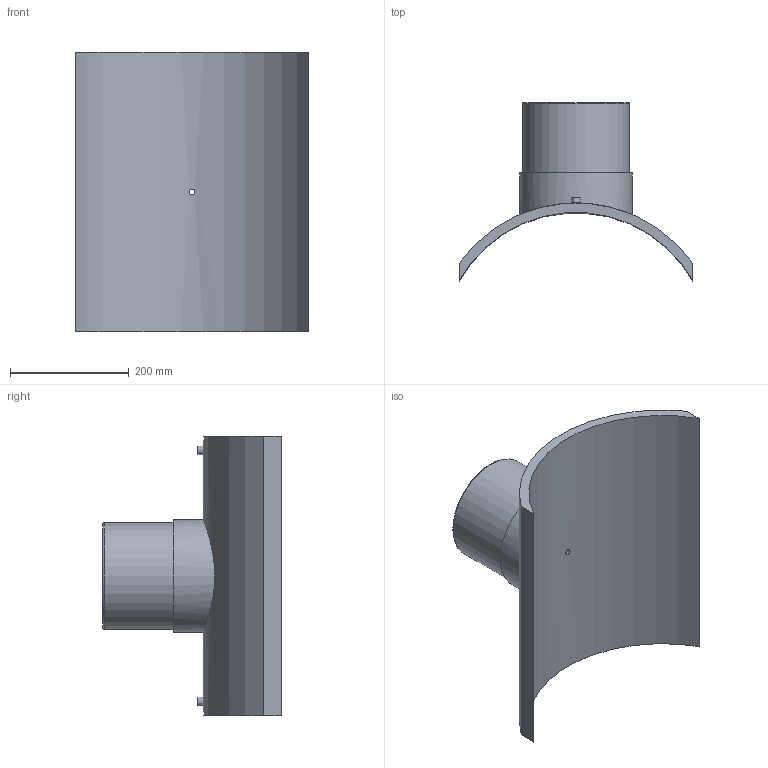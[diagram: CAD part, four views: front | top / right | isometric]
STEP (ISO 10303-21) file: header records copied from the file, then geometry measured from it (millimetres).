
FILE_DESCRIPTION(/* description */ ('PLASSON BRANCH SADDLE 450x180'),/* implementation_level */ '2;1');
FILE_NAME(/* name */ 'C:\Dropbox\KIMPROJECTS-Inventor 2019\99-16-3568-Processing\ElectroFusion Fittings\495803\stp\495803450180T.stp',/* time_stamp */ '2024-04-04T11:50:47+02:00',/* author */ ('KIM'),/* organization */ (''),/* preprocessor_version */ 'ST-DEVELOPER v17.2',/* originating_system */ 'Autodesk Inventor 2019',/* authorisation */ '');
FILE_SCHEMA (('AUTOMOTIVE_DESIGN { 1 0 10303 214 3 1 1 }'));
Length unit declared in the file: millimetre
Products named in the file (1): 495803450180T
Bounding box: 393 x 300.4 x 470 mm (x, y, z)
Volume: 5297959.5 mm3; surface area: 673042.7 mm2
Topology: 1 solids, 1 shells, 29 faces, 60 edges, 43 vertices
Faces by surface type: plane 13, cylinder 12, torus 2, cone 2
Full cylindrical faces by diameter (mm): 4 x2, 9.6 x1, 10 x2, 16 x1, 144 x1, 180 x1, 189 x1
Entity records: 1086 total; most frequent: CARTESIAN_POINT 400, DIRECTION 139, ORIENTED_EDGE 120, EDGE_CURVE 60, AXIS2_PLACEMENT_3D 60, VERTEX_POINT 43, EDGE_LOOP 41, CIRCLE 30
